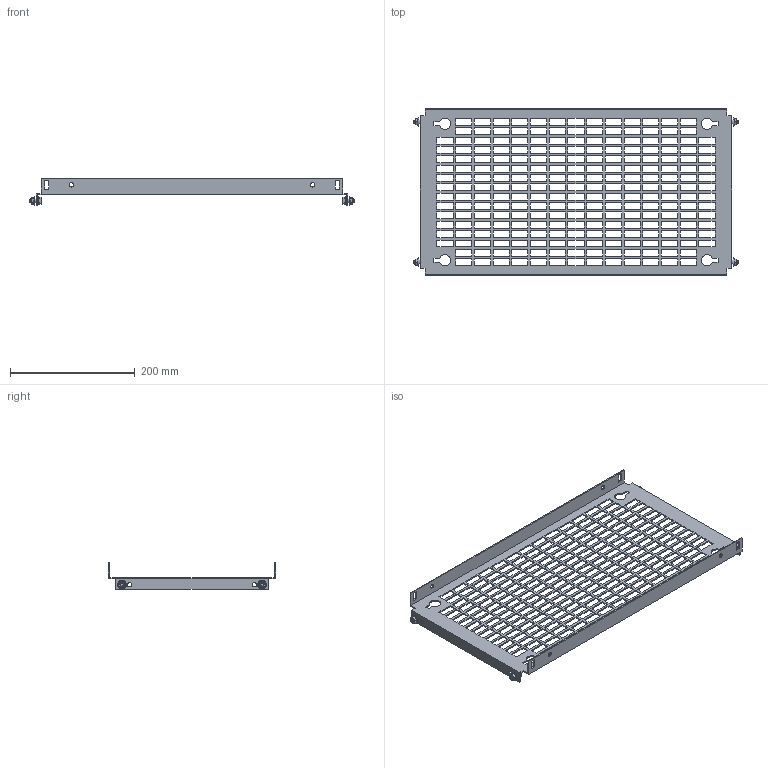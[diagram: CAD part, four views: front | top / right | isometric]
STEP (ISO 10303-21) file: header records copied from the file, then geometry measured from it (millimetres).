
FILE_DESCRIPTION(('Open CASCADE Model'),'2;1');
FILE_NAME('Open CASCADE Shape Model','2025-02-19T16:48:28',('Author'),( 'Open CASCADE'),'Open CASCADE STEP processor 7.8','Open CASCADE 7.8' ,'Unknown');
FILE_SCHEMA(('AUTOMOTIVE_DESIGN { 1 0 10303 214 1 1 1 1 }'));
Length unit declared in the file: millimetre
Products named in the file (4): Compound1; Solid1; Solid2; Solid3
Assembly tree (9 placements, depth 2):
  Compound1
    Solid1
    Solid2  x4
    Solid3  x4
Bounding box: 520 x 269 x 43 mm (x, y, z)
Volume: 200350.2 mm3; surface area: 238729.8 mm2
Topology: 9 solids, 9 shells, 1218 faces, 3482 edges, 2286 vertices
Faces by surface type: plane 1062, cone 68, bspline 48, cylinder 28, torus 12
Full cylindrical faces by diameter (mm): 5 x4, 6 x8, 7 x12
Entity records: 36256 total; most frequent: CARTESIAN_POINT 6895, ORIENTED_EDGE 6286, DIRECTION 5248, EDGE_CURVE 3143, LINE 2992, VECTOR 2992, VERTEX_POINT 2088, FACE_BOUND 1569
